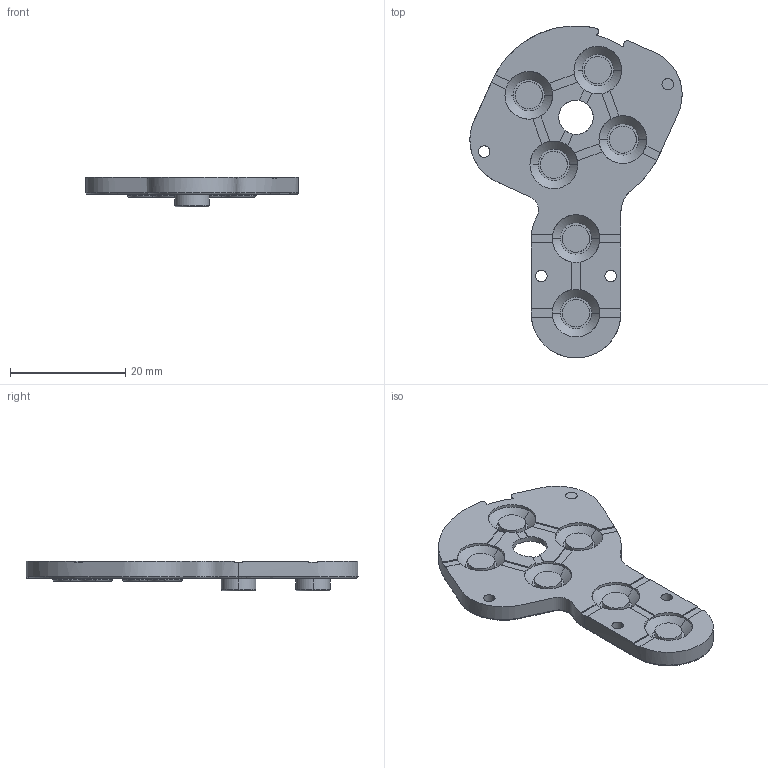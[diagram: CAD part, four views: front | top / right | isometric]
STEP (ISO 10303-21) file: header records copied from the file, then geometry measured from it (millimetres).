
FILE_DESCRIPTION(/* description */ (''),/* implementation_level */ '2;1');
FILE_NAME(/* name */ 'R dpad',/* time_stamp */ '2026-03-21T11:51:29+09:00',/* author */ (''),/* organization */ (''),/* preprocessor_version */ 'ST-DEVELOPER v16.5',/* originating_system */ '',/* authorisation */ '');
FILE_SCHEMA (('CONFIG_CONTROL_DESIGN'));
Length unit declared in the file: millimetre
Products named in the file (1): Document
Bounding box: 36.9 x 57.73 x 5.2 mm (x, y, z)
Volume: 2248.6 mm3; surface area: 3758.1 mm2
Topology: 1 solids, 1 shells, 174 faces, 433 edges, 273 vertices
Faces by surface type: plane 67, cylinder 55, bspline 52
Entity records: 5986 total; most frequent: CARTESIAN_POINT 3256, ORIENTED_EDGE 866, EDGE_CURVE 433, VERTEX_POINT 273, EDGE_LOOP 194, ADVANCED_FACE 174, FACE_OUTER_BOUND 174, B_SPLINE_CURVE_WITH_KNOTS 138
